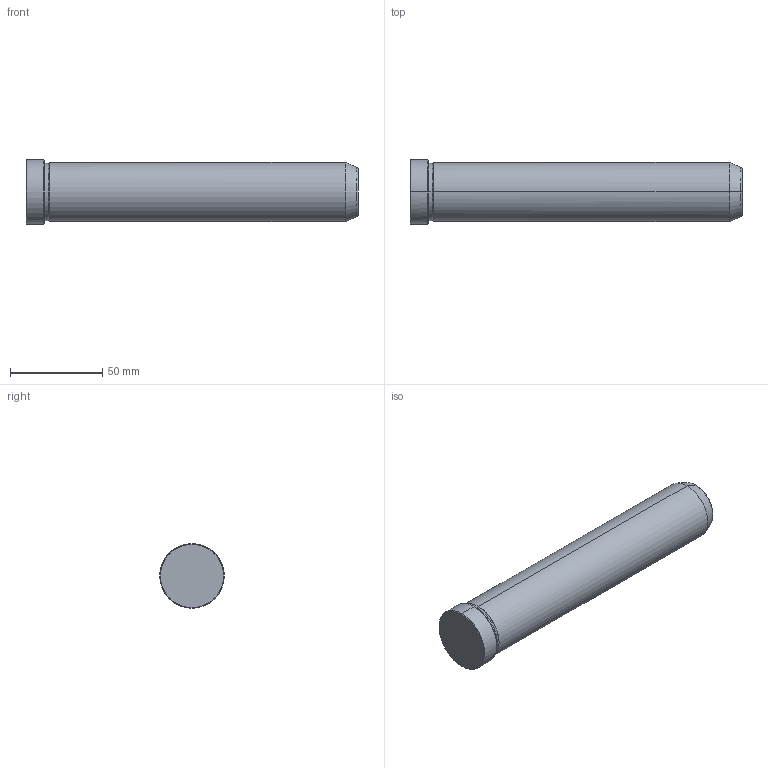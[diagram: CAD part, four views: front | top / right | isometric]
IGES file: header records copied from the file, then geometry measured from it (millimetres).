
Start section: START RECORD GO HERE.
Global section: file name: 549-32X180.igs; native system: DASSAULT SYSTEMES CATIA V5 R20 - www.3ds.com; preprocessor: CATIA Version 5 Release 20 ; author: Utente; organization: NB04-ASUS; date: 20211218.090611; units: millimetre
Bounding box: 180 x 35 x 35 mm (x, y, z)
Surface area: 19845.6 mm2 (no closed solid volume)
Topology: 0 solids, 0 shells, 19 faces, 112 edges, 112 vertices
Faces by surface type: revolution 16, plane 3
